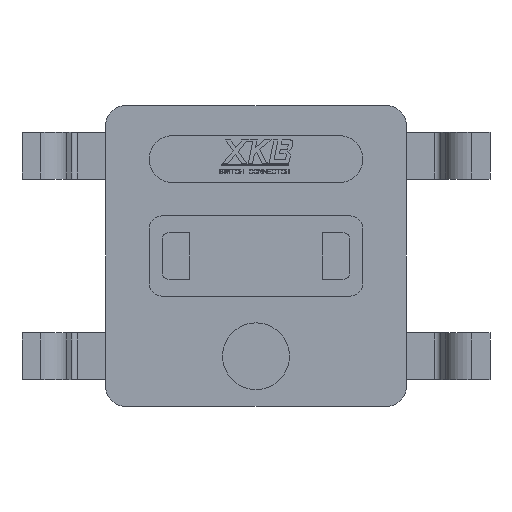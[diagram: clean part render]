
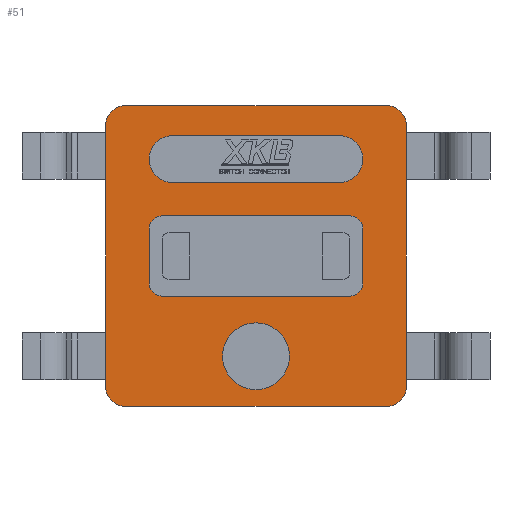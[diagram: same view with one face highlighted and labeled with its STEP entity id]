
A CAD part, front view. The second image highlights one B-rep face of the part: STEP entity #51.
In plain terms, the highlighted planar face has unit normal (0, -1, 0).
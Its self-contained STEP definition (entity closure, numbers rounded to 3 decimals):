
#51=ADVANCED_FACE('',(#614,#615,#616,#617),#618,.F.);
#614=FACE_OUTER_BOUND('',#1762,.T.);
#615=FACE_BOUND('',#1763,.T.);
#616=FACE_BOUND('',#1764,.T.);
#617=FACE_BOUND('',#1765,.T.);
#618=PLANE('',#1766);
#1762=EDGE_LOOP('',(#3207,#3208,#3209,#3210,#3211,#3212,#3213,#3214));
#1763=EDGE_LOOP('',(#3215,#3216));
#1764=EDGE_LOOP('',(#3217,#3218,#3219,#3220,#3221));
#1765=EDGE_LOOP('',(#3222,#3223,#3224,#3225,#3226,#3227,#3228,#3229));
#1766=AXIS2_PLACEMENT_3D('',#3230,#3231,#3232);
#3207=ORIENTED_EDGE('',*,*,#7945,.F.);
#3208=ORIENTED_EDGE('',*,*,#7946,.T.);
#3209=ORIENTED_EDGE('',*,*,#7947,.F.);
#3210=ORIENTED_EDGE('',*,*,#7948,.T.);
#3211=ORIENTED_EDGE('',*,*,#7949,.F.);
#3212=ORIENTED_EDGE('',*,*,#7950,.T.);
#3213=ORIENTED_EDGE('',*,*,#7951,.F.);
#3214=ORIENTED_EDGE('',*,*,#7952,.T.);
#3215=ORIENTED_EDGE('',*,*,#7953,.F.);
#3216=ORIENTED_EDGE('',*,*,#7954,.F.);
#3217=ORIENTED_EDGE('',*,*,#7936,.F.);
#3218=ORIENTED_EDGE('',*,*,#7955,.F.);
#3219=ORIENTED_EDGE('',*,*,#7956,.F.);
#3220=ORIENTED_EDGE('',*,*,#7957,.F.);
#3221=ORIENTED_EDGE('',*,*,#7958,.F.);
#3222=ORIENTED_EDGE('',*,*,#7959,.T.);
#3223=ORIENTED_EDGE('',*,*,#7960,.F.);
#3224=ORIENTED_EDGE('',*,*,#7961,.T.);
#3225=ORIENTED_EDGE('',*,*,#7962,.F.);
#3226=ORIENTED_EDGE('',*,*,#7963,.T.);
#3227=ORIENTED_EDGE('',*,*,#7964,.F.);
#3228=ORIENTED_EDGE('',*,*,#7965,.T.);
#3229=ORIENTED_EDGE('',*,*,#7966,.F.);
#3230=CARTESIAN_POINT('',(0.0,0.0,0.0));
#3231=DIRECTION('',(-0.0,1.0,0.0));
#3232=DIRECTION('',(1.0,0.0,0.0));
#7936=EDGE_CURVE('',#9499,#9495,#9501,.T.);
#7945=EDGE_CURVE('',#9518,#9519,#9520,.T.);
#7946=EDGE_CURVE('',#9518,#9521,#9522,.T.);
#7947=EDGE_CURVE('',#9523,#9521,#9524,.T.);
#7948=EDGE_CURVE('',#9523,#9525,#9526,.T.);
#7949=EDGE_CURVE('',#9527,#9525,#9528,.T.);
#7950=EDGE_CURVE('',#9527,#9529,#9530,.T.);
#7951=EDGE_CURVE('',#9531,#9529,#9532,.T.);
#7952=EDGE_CURVE('',#9531,#9519,#9533,.T.);
#7953=EDGE_CURVE('',#9534,#9535,#9536,.T.);
#7954=EDGE_CURVE('',#9535,#9534,#9537,.T.);
#7955=EDGE_CURVE('',#9538,#9499,#9539,.T.);
#7956=EDGE_CURVE('',#9540,#9538,#9541,.T.);
#7957=EDGE_CURVE('',#9542,#9540,#9543,.T.);
#7958=EDGE_CURVE('',#9495,#9542,#9544,.T.);
#7959=EDGE_CURVE('',#9545,#9546,#9547,.T.);
#7960=EDGE_CURVE('',#9548,#9546,#9549,.T.);
#7961=EDGE_CURVE('',#9548,#9550,#9551,.T.);
#7962=EDGE_CURVE('',#9552,#9550,#9553,.T.);
#7963=EDGE_CURVE('',#9552,#9554,#9555,.T.);
#7964=EDGE_CURVE('',#9556,#9554,#9557,.T.);
#7965=EDGE_CURVE('',#9556,#9558,#9559,.T.);
#7966=EDGE_CURVE('',#9545,#9558,#9560,.T.);
#9495=VERTEX_POINT('',#12084);
#9499=VERTEX_POINT('',#12089);
#9501=CIRCLE('',#12092,0.35);
#9518=VERTEX_POINT('',#12109);
#9519=VERTEX_POINT('',#12110);
#9520=LINE('',#12111,#12112);
#9521=VERTEX_POINT('',#12113);
#9522=CIRCLE('',#12114,0.3);
#9523=VERTEX_POINT('',#12115);
#9524=LINE('',#12116,#12117);
#9525=VERTEX_POINT('',#12118);
#9526=CIRCLE('',#12119,0.3);
#9527=VERTEX_POINT('',#12120);
#9528=LINE('',#12121,#12122);
#9529=VERTEX_POINT('',#12123);
#9530=CIRCLE('',#12124,0.3);
#9531=VERTEX_POINT('',#12125);
#9532=LINE('',#12126,#12127);
#9533=CIRCLE('',#12128,0.3);
#9534=VERTEX_POINT('',#12129);
#9535=VERTEX_POINT('',#12130);
#9536=CIRCLE('',#12131,0.5);
#9537=CIRCLE('',#12132,0.5);
#9538=VERTEX_POINT('',#12133);
#9539=LINE('',#12134,#12135);
#9540=VERTEX_POINT('',#12136);
#9541=CIRCLE('',#12137,0.35);
#9542=VERTEX_POINT('',#12138);
#9543=LINE('',#12139,#12140);
#9544=CIRCLE('',#12141,0.35);
#9545=VERTEX_POINT('',#12142);
#9546=VERTEX_POINT('',#12143);
#9547=CIRCLE('',#12144,0.2);
#9548=VERTEX_POINT('',#12145);
#9549=LINE('',#12146,#12147);
#9550=VERTEX_POINT('',#12148);
#9551=CIRCLE('',#12149,0.2);
#9552=VERTEX_POINT('',#12150);
#9553=LINE('',#12151,#12152);
#9554=VERTEX_POINT('',#12153);
#9555=CIRCLE('',#12154,0.2);
#9556=VERTEX_POINT('',#12155);
#9557=LINE('',#12156,#12157);
#9558=VERTEX_POINT('',#12158);
#9559=CIRCLE('',#12159,0.2);
#9560=LINE('',#12160,#12161);
#12084=CARTESIAN_POINT('',(1.6,0.0,1.45));
#12089=CARTESIAN_POINT('',(1.25,0.0,1.1));
#12092=AXIS2_PLACEMENT_3D('',#16098,#16099,#16100);
#12109=CARTESIAN_POINT('',(-2.25,0.0,-1.95));
#12110=CARTESIAN_POINT('',(-2.25,0.0,1.95));
#12111=CARTESIAN_POINT('',(-2.25,0.0,-1.95));
#12112=VECTOR('',#16125,3.9);
#12113=CARTESIAN_POINT('',(-1.95,0.0,-2.25));
#12114=AXIS2_PLACEMENT_3D('',#16126,#16127,#16128);
#12115=CARTESIAN_POINT('',(1.95,0.0,-2.25));
#12116=CARTESIAN_POINT('',(1.95,0.0,-2.25));
#12117=VECTOR('',#16129,3.9);
#12118=CARTESIAN_POINT('',(2.25,0.0,-1.95));
#12119=AXIS2_PLACEMENT_3D('',#16130,#16131,#16132);
#12120=CARTESIAN_POINT('',(2.25,0.0,1.95));
#12121=CARTESIAN_POINT('',(2.25,0.0,1.95));
#12122=VECTOR('',#16133,3.9);
#12123=CARTESIAN_POINT('',(1.95,0.0,2.25));
#12124=AXIS2_PLACEMENT_3D('',#16134,#16135,#16136);
#12125=CARTESIAN_POINT('',(-1.95,0.0,2.25));
#12126=CARTESIAN_POINT('',(-1.95,0.0,2.25));
#12127=VECTOR('',#16137,3.9);
#12128=AXIS2_PLACEMENT_3D('',#16138,#16139,#16140);
#12129=CARTESIAN_POINT('',(0.0,0.0,-2.0));
#12130=CARTESIAN_POINT('',(0.0,0.0,-1.0));
#12131=AXIS2_PLACEMENT_3D('',#16141,#16142,#16143);
#12132=AXIS2_PLACEMENT_3D('',#16144,#16145,#16146);
#12133=CARTESIAN_POINT('',(-1.25,0.0,1.1));
#12134=CARTESIAN_POINT('',(-1.25,0.0,1.1));
#12135=VECTOR('',#16147,2.5);
#12136=CARTESIAN_POINT('',(-1.25,0.0,1.8));
#12137=AXIS2_PLACEMENT_3D('',#16148,#16149,#16150);
#12138=CARTESIAN_POINT('',(1.25,0.0,1.8));
#12139=CARTESIAN_POINT('',(1.25,0.0,1.8));
#12140=VECTOR('',#16151,2.5);
#12141=AXIS2_PLACEMENT_3D('',#16152,#16153,#16154);
#12142=CARTESIAN_POINT('',(-1.4,0.0,-0.6));
#12143=CARTESIAN_POINT('',(-1.6,0.0,-0.4));
#12144=AXIS2_PLACEMENT_3D('',#16155,#16156,#16157);
#12145=CARTESIAN_POINT('',(-1.6,0.0,0.4));
#12146=CARTESIAN_POINT('',(-1.6,0.0,0.4));
#12147=VECTOR('',#16158,0.8);
#12148=CARTESIAN_POINT('',(-1.4,0.0,0.6));
#12149=AXIS2_PLACEMENT_3D('',#16159,#16160,#16161);
#12150=CARTESIAN_POINT('',(1.4,0.0,0.6));
#12151=CARTESIAN_POINT('',(1.4,0.0,0.6));
#12152=VECTOR('',#16162,2.8);
#12153=CARTESIAN_POINT('',(1.6,0.0,0.4));
#12154=AXIS2_PLACEMENT_3D('',#16163,#16164,#16165);
#12155=CARTESIAN_POINT('',(1.6,0.0,-0.4));
#12156=CARTESIAN_POINT('',(1.6,0.0,-0.4));
#12157=VECTOR('',#16166,0.8);
#12158=CARTESIAN_POINT('',(1.4,0.0,-0.6));
#12159=AXIS2_PLACEMENT_3D('',#16167,#16168,#16169);
#12160=CARTESIAN_POINT('',(-1.4,0.0,-0.6));
#12161=VECTOR('',#16170,2.8);
#16098=CARTESIAN_POINT('',(1.25,0.0,1.45));
#16099=DIRECTION('',(0.0,-1.0,0.0));
#16100=DIRECTION('',(0.0,0.0,-1.0));
#16125=DIRECTION('',(0.0,0.0,1.0));
#16126=CARTESIAN_POINT('',(-1.95,0.0,-1.95));
#16127=DIRECTION('',(0.0,-1.0,0.0));
#16128=DIRECTION('',(-1.0,0.0,0.0));
#16129=DIRECTION('',(-1.0,0.0,0.0));
#16130=CARTESIAN_POINT('',(1.95,0.0,-1.95));
#16131=DIRECTION('',(0.0,-1.0,0.0));
#16132=DIRECTION('',(0.0,0.0,-1.0));
#16133=DIRECTION('',(0.0,0.0,-1.0));
#16134=CARTESIAN_POINT('',(1.95,0.0,1.95));
#16135=DIRECTION('',(0.0,-1.0,0.0));
#16136=DIRECTION('',(1.0,0.0,0.0));
#16137=DIRECTION('',(1.0,0.0,0.0));
#16138=CARTESIAN_POINT('',(-1.95,0.0,1.95));
#16139=DIRECTION('',(0.0,-1.0,0.0));
#16140=DIRECTION('',(0.0,0.0,1.0));
#16141=CARTESIAN_POINT('',(0.0,0.0,-1.5));
#16142=DIRECTION('',(0.0,-1.0,0.0));
#16143=DIRECTION('',(0.0,0.0,-1.0));
#16144=CARTESIAN_POINT('',(0.0,0.0,-1.5));
#16145=DIRECTION('',(0.0,-1.0,0.0));
#16146=DIRECTION('',(0.0,0.0,1.0));
#16147=DIRECTION('',(1.0,0.0,0.0));
#16148=CARTESIAN_POINT('',(-1.25,0.0,1.45));
#16149=DIRECTION('',(0.0,-1.0,0.0));
#16150=DIRECTION('',(0.0,0.0,1.0));
#16151=DIRECTION('',(-1.0,0.0,0.0));
#16152=CARTESIAN_POINT('',(1.25,0.0,1.45));
#16153=DIRECTION('',(0.0,-1.0,0.0));
#16154=DIRECTION('',(0.0,0.0,-1.0));
#16155=CARTESIAN_POINT('',(-1.4,0.0,-0.4));
#16156=DIRECTION('',(0.0,1.0,0.0));
#16157=DIRECTION('',(0.0,0.0,-1.0));
#16158=DIRECTION('',(0.0,0.0,-1.0));
#16159=CARTESIAN_POINT('',(-1.4,0.0,0.4));
#16160=DIRECTION('',(0.0,1.0,0.0));
#16161=DIRECTION('',(-1.0,0.0,0.0));
#16162=DIRECTION('',(-1.0,0.0,0.0));
#16163=CARTESIAN_POINT('',(1.4,0.0,0.4));
#16164=DIRECTION('',(0.0,1.0,0.0));
#16165=DIRECTION('',(0.0,0.0,1.0));
#16166=DIRECTION('',(0.0,0.0,1.0));
#16167=CARTESIAN_POINT('',(1.4,0.0,-0.4));
#16168=DIRECTION('',(-0.0,1.0,0.0));
#16169=DIRECTION('',(1.0,0.0,0.0));
#16170=DIRECTION('',(1.0,0.0,0.0));
